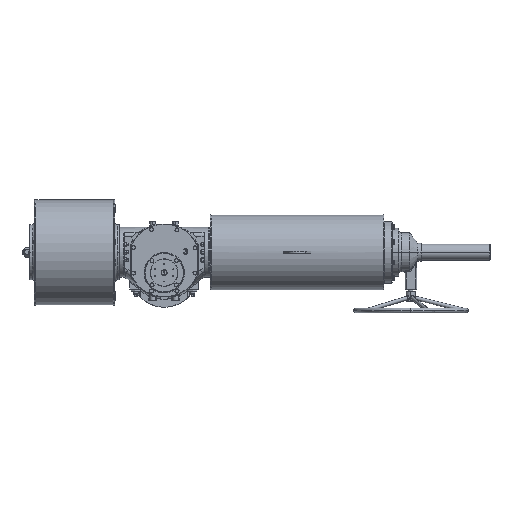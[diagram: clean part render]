
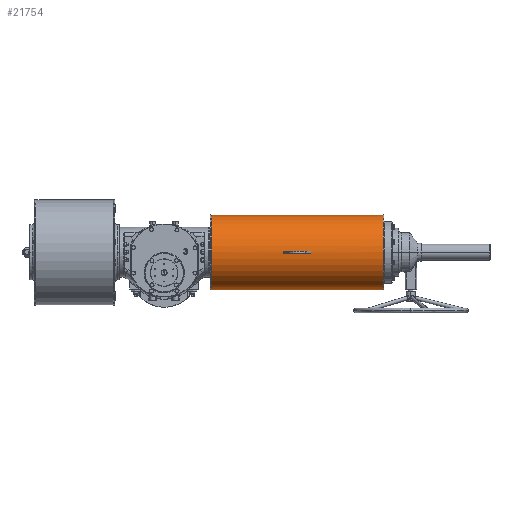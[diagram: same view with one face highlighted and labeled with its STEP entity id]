
A CAD part, top view. The second image highlights one B-rep face of the part: STEP entity #21754.
In plain terms, the highlighted cylindrical face has radius 162.5 mm (diameter 325 mm), a partial arc.
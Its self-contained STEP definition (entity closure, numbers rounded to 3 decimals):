
#310 = VERTEX_POINT ( 'NONE', #19724 ) ;
#1811 = AXIS2_PLACEMENT_3D ( 'NONE', #13640, #12593, #92203 ) ;
#3303 = AXIS2_PLACEMENT_3D ( 'NONE', #102038, #84865, #20895 ) ;
#4196 = EDGE_CURVE ( 'NONE', #310, #80178, #19187, .T. ) ;
#5870 = VERTEX_POINT ( 'NONE', #83535 ) ;
#6649 = ORIENTED_EDGE ( 'NONE', *, *, #4196, .F. ) ;
#7145 = EDGE_LOOP ( 'NONE', ( #74233, #82670, #23077, #89543 ) ) ;
#7351 = DIRECTION ( 'NONE',  ( 0., 1., 0. ) ) ;
#9284 = ORIENTED_EDGE ( 'NONE', *, *, #32001, .T. ) ;
#9563 = CARTESIAN_POINT ( 'NONE',  ( 519.5, 35.5, 74.5 ) ) ;
#9724 = DIRECTION ( 'NONE',  ( 1., 0., 0. ) ) ;
#12593 = DIRECTION ( 'NONE',  ( 1., 0., 0. ) ) ;
#13589 = AXIS2_PLACEMENT_3D ( 'NONE', #33836, #89983, #17671 ) ;
#13640 = CARTESIAN_POINT ( 'NONE',  ( 639.5, 35.5, 74.5 ) ) ;
#17021 = EDGE_CURVE ( 'NONE', #5870, #41475, #42524, .T. ) ;
#17671 = DIRECTION ( 'NONE',  ( 0., -1., 0. ) ) ;
#18382 = VECTOR ( 'NONE', #83707, 1000. ) ;
#18554 = CIRCLE ( 'NONE', #13589, 162.5 ) ;
#18566 = CARTESIAN_POINT ( 'NONE',  ( 208., -127., 74.5 ) ) ;
#18639 = CIRCLE ( 'NONE', #48545, 162.5 ) ;
#19187 = LINE ( 'NONE', #98288, #18382 ) ;
#19724 = CARTESIAN_POINT ( 'NONE',  ( 519.5, 30.5, 236.923 ) ) ;
#20766 = VERTEX_POINT ( 'NONE', #49549 ) ;
#20895 = DIRECTION ( 'NONE',  ( 0., 1., 0. ) ) ;
#21754 = ADVANCED_FACE ( 'NONE', ( #49824, #95613 ), #33161, .T. ) ;
#22410 = EDGE_CURVE ( 'NONE', #39029, #101371, #18554, .T. ) ;
#23077 = ORIENTED_EDGE ( 'NONE', *, *, #73508, .T. ) ;
#24655 = CIRCLE ( 'NONE', #91180, 162.5 ) ;
#25879 = CARTESIAN_POINT ( 'NONE',  ( 208., 35.5, 74.5 ) ) ;
#30067 = CARTESIAN_POINT ( 'NONE',  ( 519.5, 35.5, 237. ) ) ;
#30917 = CARTESIAN_POINT ( 'NONE',  ( 954., 198., 74.5 ) ) ;
#32001 = EDGE_CURVE ( 'NONE', #101371, #80178, #33409, .T. ) ;
#33161 = CYLINDRICAL_SURFACE ( 'NONE', #81627, 162.5 ) ;
#33409 = CIRCLE ( 'NONE', #1811, 162.5 ) ;
#33836 = CARTESIAN_POINT ( 'NONE',  ( 639.5, 35.5, 74.5 ) ) ;
#34531 = VECTOR ( 'NONE', #81572, 1000. ) ;
#39029 = VERTEX_POINT ( 'NONE', #85291 ) ;
#39590 = DIRECTION ( 'NONE',  ( 0., 1., 0. ) ) ;
#40760 = CARTESIAN_POINT ( 'NONE',  ( 954., -127., 74.5 ) ) ;
#41024 = LINE ( 'NONE', #64941, #34531 ) ;
#41118 = EDGE_LOOP ( 'NONE', ( #6649, #49163, #63817, #51101, #79115, #9284 ) ) ;
#41162 = VECTOR ( 'NONE', #63590, 1000. ) ;
#41475 = VERTEX_POINT ( 'NONE', #40760 ) ;
#42524 = LINE ( 'NONE', #18566, #42543 ) ;
#42543 = VECTOR ( 'NONE', #9724, 1000. ) ;
#46907 = CARTESIAN_POINT ( 'NONE',  ( 519.5, 35.5, 74.5 ) ) ;
#48545 = AXIS2_PLACEMENT_3D ( 'NONE', #46907, #80174, #39590 ) ;
#49163 = ORIENTED_EDGE ( 'NONE', *, *, #100566, .T. ) ;
#49549 = CARTESIAN_POINT ( 'NONE',  ( 519.5, 40.5, 236.923 ) ) ;
#49824 = FACE_BOUND ( 'NONE', #41118, .T. ) ;
#50350 = DIRECTION ( 'NONE',  ( 1., 0., 0. ) ) ;
#51101 = ORIENTED_EDGE ( 'NONE', *, *, #59761, .T. ) ;
#54722 = CARTESIAN_POINT ( 'NONE',  ( 205., 35.5, 74.5 ) ) ;
#55280 = LINE ( 'NONE', #86966, #41162 ) ;
#59761 = EDGE_CURVE ( 'NONE', #20766, #39029, #55280, .T. ) ;
#59966 = EDGE_CURVE ( 'NONE', #62845, #93766, #41024, .T. ) ;
#59981 = AXIS2_PLACEMENT_3D ( 'NONE', #54722, #102072, #7351 ) ;
#61705 = CIRCLE ( 'NONE', #59981, 162.5 ) ;
#62845 = VERTEX_POINT ( 'NONE', #79738 ) ;
#63590 = DIRECTION ( 'NONE',  ( 1., 0., 0. ) ) ;
#63731 = DIRECTION ( 'NONE',  ( -1., 0., 0. ) ) ;
#63817 = ORIENTED_EDGE ( 'NONE', *, *, #91912, .T. ) ;
#64941 = CARTESIAN_POINT ( 'NONE',  ( 208., 198., 74.5 ) ) ;
#65745 = EDGE_CURVE ( 'NONE', #62845, #5870, #61705, .T. ) ;
#69747 = CARTESIAN_POINT ( 'NONE',  ( 639.5, 30.5, 236.923 ) ) ;
#71083 = CARTESIAN_POINT ( 'NONE',  ( 639.5, 35.5, 237. ) ) ;
#71709 = DIRECTION ( 'NONE',  ( 0., 1., 0. ) ) ;
#73508 = EDGE_CURVE ( 'NONE', #41475, #93766, #79759, .T. ) ;
#74233 = ORIENTED_EDGE ( 'NONE', *, *, #65745, .T. ) ;
#76716 = VERTEX_POINT ( 'NONE', #30067 ) ;
#79115 = ORIENTED_EDGE ( 'NONE', *, *, #22410, .T. ) ;
#79738 = CARTESIAN_POINT ( 'NONE',  ( 205., 198., 74.5 ) ) ;
#79759 = CIRCLE ( 'NONE', #3303, 162.5 ) ;
#80174 = DIRECTION ( 'NONE',  ( -1., 0., 0. ) ) ;
#80178 = VERTEX_POINT ( 'NONE', #69747 ) ;
#81572 = DIRECTION ( 'NONE',  ( 1., 0., 0. ) ) ;
#81627 = AXIS2_PLACEMENT_3D ( 'NONE', #25879, #50350, #71709 ) ;
#82670 = ORIENTED_EDGE ( 'NONE', *, *, #17021, .T. ) ;
#83535 = CARTESIAN_POINT ( 'NONE',  ( 205., -127., 74.5 ) ) ;
#83707 = DIRECTION ( 'NONE',  ( 1., 0., 0. ) ) ;
#84865 = DIRECTION ( 'NONE',  ( -1., 0., 0. ) ) ;
#85291 = CARTESIAN_POINT ( 'NONE',  ( 639.5, 40.5, 236.923 ) ) ;
#86966 = CARTESIAN_POINT ( 'NONE',  ( 208., 40.5, 236.923 ) ) ;
#89543 = ORIENTED_EDGE ( 'NONE', *, *, #59966, .F. ) ;
#89983 = DIRECTION ( 'NONE',  ( 1., 0., 0. ) ) ;
#91180 = AXIS2_PLACEMENT_3D ( 'NONE', #9563, #63731, #95956 ) ;
#91912 = EDGE_CURVE ( 'NONE', #76716, #20766, #24655, .T. ) ;
#92203 = DIRECTION ( 'NONE',  ( 0., -1., 0. ) ) ;
#93766 = VERTEX_POINT ( 'NONE', #30917 ) ;
#95613 = FACE_OUTER_BOUND ( 'NONE', #7145, .T. ) ;
#95956 = DIRECTION ( 'NONE',  ( 0., 1., 0. ) ) ;
#98288 = CARTESIAN_POINT ( 'NONE',  ( 208., 30.5, 236.923 ) ) ;
#100566 = EDGE_CURVE ( 'NONE', #310, #76716, #18639, .T. ) ;
#101371 = VERTEX_POINT ( 'NONE', #71083 ) ;
#102038 = CARTESIAN_POINT ( 'NONE',  ( 954., 35.5, 74.5 ) ) ;
#102072 = DIRECTION ( 'NONE',  ( 1., 0., 0. ) ) ;
